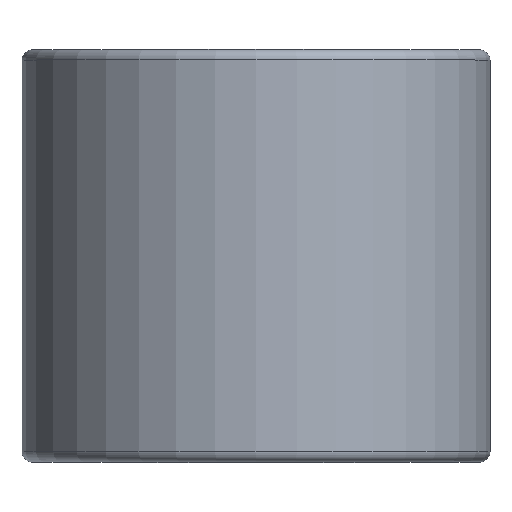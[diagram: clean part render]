
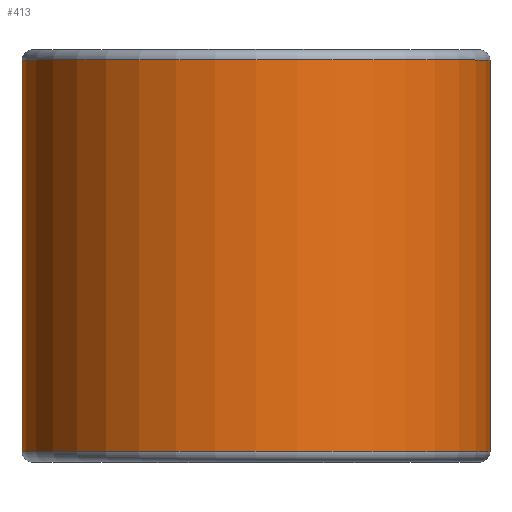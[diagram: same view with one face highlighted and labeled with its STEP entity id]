
A CAD part, top view. The second image highlights one B-rep face of the part: STEP entity #413.
In plain terms, the highlighted cylindrical face has radius 227 mm (diameter 454 mm), a full revolution.
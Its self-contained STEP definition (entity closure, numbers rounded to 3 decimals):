
#45=FACE_BOUND('',#139,.T.);
#91=FACE_OUTER_BOUND('',#138,.T.);
#138=EDGE_LOOP('',(#328));
#139=EDGE_LOOP('',(#329));
#204=CIRCLE('',#475,227.);
#206=CIRCLE('',#478,227.);
#242=VERTEX_POINT('',#722);
#244=VERTEX_POINT('',#727);
#280=EDGE_CURVE('',#242,#242,#204,.T.);
#282=EDGE_CURVE('',#244,#244,#206,.T.);
#328=ORIENTED_EDGE('',*,*,#282,.F.);
#329=ORIENTED_EDGE('',*,*,#280,.F.);
#386=CYLINDRICAL_SURFACE('',#477,227.);
#413=ADVANCED_FACE('',(#91,#45),#386,.T.);
#475=AXIS2_PLACEMENT_3D('',#723,#586,#587);
#477=AXIS2_PLACEMENT_3D('',#726,#590,#591);
#478=AXIS2_PLACEMENT_3D('',#728,#592,#593);
#586=DIRECTION('center_axis',(0.,1.,0.));
#587=DIRECTION('ref_axis',(1.,0.,0.));
#590=DIRECTION('center_axis',(0.,1.,0.));
#591=DIRECTION('ref_axis',(1.,0.,0.));
#592=DIRECTION('center_axis',(0.,-1.,0.));
#593=DIRECTION('ref_axis',(1.,0.,0.));
#722=CARTESIAN_POINT('',(-227.,190.,0.));
#723=CARTESIAN_POINT('Origin',(0.,190.,0.));
#726=CARTESIAN_POINT('Origin',(0.,0.,0.));
#727=CARTESIAN_POINT('',(-227.,-190.,0.));
#728=CARTESIAN_POINT('Origin',(0.,-190.,0.));
